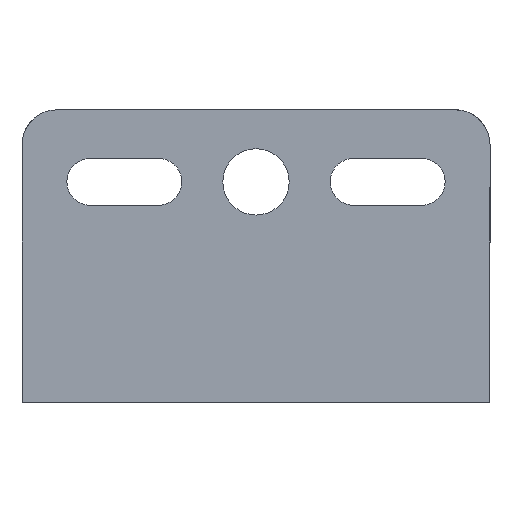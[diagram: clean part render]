
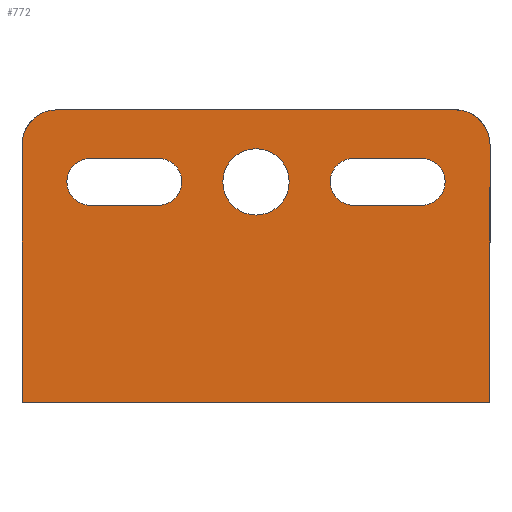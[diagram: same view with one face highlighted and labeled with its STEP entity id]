
A CAD part, front view. The second image highlights one B-rep face of the part: STEP entity #772.
In plain terms, the highlighted planar face has unit normal (0, -1, 0).
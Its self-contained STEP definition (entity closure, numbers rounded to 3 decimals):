
#7 = CARTESIAN_POINT ( 'NONE',  ( -8.5, 0., 2.6 ) ) ;
#10 = AXIS2_PLACEMENT_3D ( 'NONE', #3646, #1711, #3978 ) ;
#65 = CARTESIAN_POINT ( 'NONE',  ( -8.5, 0., 2.6 ) ) ;
#66 = ORIENTED_EDGE ( 'NONE', *, *, #1924, .F. ) ;
#88 = AXIS2_PLACEMENT_3D ( 'NONE', #3969, #2019, #95 ) ;
#95 = DIRECTION ( 'NONE',  ( 0., 0., 1. ) ) ;
#99 = VERTEX_POINT ( 'NONE', #355 ) ;
#98 = VECTOR ( 'NONE', #334, 1000. ) ;
#104 = ORIENTED_EDGE ( 'NONE', *, *, #416, .F. ) ;
#201 = EDGE_CURVE ( 'NONE', #2102, #762, #3761, .T. ) ;
#220 = VECTOR ( 'NONE', #1731, 1000. ) ;
#272 = EDGE_LOOP ( 'NONE', ( #2427, #848 ) ) ;
#275 = DIRECTION ( 'NONE',  ( 0., 1., 0. ) ) ;
#285 = EDGE_CURVE ( 'NONE', #407, #4179, #1090, .T. ) ;
#288 = DIRECTION ( 'NONE',  ( 0., -1., 0. ) ) ;
#334 = DIRECTION ( 'NONE',  ( 1., 0., 0. ) ) ;
#339 = VERTEX_POINT ( 'NONE', #3694 ) ;
#340 = CARTESIAN_POINT ( 'NONE',  ( 8.5, 0., 2.6 ) ) ;
#351 = VERTEX_POINT ( 'NONE', #3349 ) ;
#355 = CARTESIAN_POINT ( 'NONE',  ( 5., 0., 2.6 ) ) ;
#407 = VERTEX_POINT ( 'NONE', #3050 ) ;
#416 = EDGE_CURVE ( 'NONE', #2389, #3947, #896, .T. ) ;
#425 = ORIENTED_EDGE ( 'NONE', *, *, #3359, .F. ) ;
#432 = CIRCLE ( 'NONE', #4125, 1.2 ) ;
#435 = LINE ( 'NONE', #340, #1306 ) ;
#442 = DIRECTION ( 'NONE',  ( 0., 0., 1. ) ) ;
#467 = CARTESIAN_POINT ( 'NONE',  ( 5., 0., 5. ) ) ;
#484 = CARTESIAN_POINT ( 'NONE',  ( -10.2, 0., 5.7 ) ) ;
#518 = DIRECTION ( 'NONE',  ( 0., 1., 0. ) ) ;
#549 = FACE_BOUND ( 'NONE', #3333, .T. ) ;
#585 = ORIENTED_EDGE ( 'NONE', *, *, #787, .T. ) ;
#630 = CARTESIAN_POINT ( 'NONE',  ( -12., 0., 7.5 ) ) ;
#643 = CIRCLE ( 'NONE', #664, 1.2 ) ;
#659 = ORIENTED_EDGE ( 'NONE', *, *, #1516, .T. ) ;
#664 = AXIS2_PLACEMENT_3D ( 'NONE', #1527, #3163, #1254 ) ;
#669 = CARTESIAN_POINT ( 'NONE',  ( 8.5, 0., 5. ) ) ;
#709 = VERTEX_POINT ( 'NONE', #1933 ) ;
#736 = EDGE_CURVE ( 'NONE', #4115, #407, #643, .T. ) ;
#752 = EDGE_CURVE ( 'NONE', #709, #99, #435, .T. ) ;
#760 = CARTESIAN_POINT ( 'NONE',  ( 8.5, 0., 3.8 ) ) ;
#762 = VERTEX_POINT ( 'NONE', #1568 ) ;
#772 = ADVANCED_FACE ( 'NONE', ( #3777, #3870, #2043, #549 ), #4155, .F. ) ;
#787 = EDGE_CURVE ( 'NONE', #4162, #762, #1937, .T. ) ;
#817 = DIRECTION ( 'NONE',  ( 0., 0., 1. ) ) ;
#848 = ORIENTED_EDGE ( 'NONE', *, *, #1836, .T. ) ;
#896 = LINE ( 'NONE', #1159, #3339 ) ;
#929 = ORIENTED_EDGE ( 'NONE', *, *, #3659, .T. ) ;
#962 = AXIS2_PLACEMENT_3D ( 'NONE', #484, #2717, #817 ) ;
#1021 = LINE ( 'NONE', #7, #2594 ) ;
#1030 = VECTOR ( 'NONE', #3897, 1000. ) ;
#1090 = LINE ( 'NONE', #3662, #220 ) ;
#1099 = DIRECTION ( 'NONE',  ( 0., 0., -1. ) ) ;
#1110 = AXIS2_PLACEMENT_3D ( 'NONE', #2209, #288, #2528 ) ;
#1149 = ORIENTED_EDGE ( 'NONE', *, *, #2870, .T. ) ;
#1159 = CARTESIAN_POINT ( 'NONE',  ( -12., 0., -7.5 ) ) ;
#1233 = ORIENTED_EDGE ( 'NONE', *, *, #752, .T. ) ;
#1254 = DIRECTION ( 'NONE',  ( 0., 0., 1. ) ) ;
#1302 = CARTESIAN_POINT ( 'NONE',  ( 5., 0., 3.8 ) ) ;
#1303 = CARTESIAN_POINT ( 'NONE',  ( -12., 0., -7.5 ) ) ;
#1306 = VECTOR ( 'NONE', #2913, 1000. ) ;
#1317 = AXIS2_PLACEMENT_3D ( 'NONE', #3496, #275, #2511 ) ;
#1474 = EDGE_CURVE ( 'NONE', #99, #3640, #1952, .T. ) ;
#1478 = ORIENTED_EDGE ( 'NONE', *, *, #285, .T. ) ;
#1489 = CARTESIAN_POINT ( 'NONE',  ( -10.2, 0., 7.5 ) ) ;
#1516 = EDGE_CURVE ( 'NONE', #1590, #4115, #1021, .T. ) ;
#1527 = CARTESIAN_POINT ( 'NONE',  ( -8.5, 0., 3.8 ) ) ;
#1568 = CARTESIAN_POINT ( 'NONE',  ( 10.2, 0., 7.5 ) ) ;
#1590 = VERTEX_POINT ( 'NONE', #3965 ) ;
#1618 = DIRECTION ( 'NONE',  ( 0., 0., -1. ) ) ;
#1705 = CARTESIAN_POINT ( 'NONE',  ( -5., 0., 5. ) ) ;
#1711 = DIRECTION ( 'NONE',  ( 0., 1., 0. ) ) ;
#1731 = DIRECTION ( 'NONE',  ( 1., 0., 0. ) ) ;
#1821 = LINE ( 'NONE', #669, #98 ) ;
#1836 = EDGE_CURVE ( 'NONE', #2359, #4057, #2851, .T. ) ;
#1841 = EDGE_LOOP ( 'NONE', ( #2759, #1478, #2763, #659 ) ) ;
#1872 = LINE ( 'NONE', #3244, #1030 ) ;
#1924 = EDGE_CURVE ( 'NONE', #4162, #2389, #1872, .T. ) ;
#1933 = CARTESIAN_POINT ( 'NONE',  ( 8.5, 0., 2.6 ) ) ;
#1937 = CIRCLE ( 'NONE', #1110, 1.8 ) ;
#1952 = CIRCLE ( 'NONE', #3268, 1.2 ) ;
#1969 = ORIENTED_EDGE ( 'NONE', *, *, #201, .F. ) ;
#2019 = DIRECTION ( 'NONE',  ( 0., 1., 0. ) ) ;
#2043 = FACE_BOUND ( 'NONE', #272, .T. ) ;
#2102 = VERTEX_POINT ( 'NONE', #1489 ) ;
#2209 = CARTESIAN_POINT ( 'NONE',  ( 10.2, 0., 5.7 ) ) ;
#2265 = ORIENTED_EDGE ( 'NONE', *, *, #4031, .T. ) ;
#2359 = VERTEX_POINT ( 'NONE', #3367 ) ;
#2360 = CARTESIAN_POINT ( 'NONE',  ( 0., 0., 2.1 ) ) ;
#2389 = VERTEX_POINT ( 'NONE', #3697 ) ;
#2427 = ORIENTED_EDGE ( 'NONE', *, *, #2646, .T. ) ;
#2428 = CARTESIAN_POINT ( 'NONE',  ( 0., 0., 3.8 ) ) ;
#2455 = CIRCLE ( 'NONE', #10, 1.2 ) ;
#2461 = VECTOR ( 'NONE', #442, 1000. ) ;
#2511 = DIRECTION ( 'NONE',  ( 0., 0., 1. ) ) ;
#2528 = DIRECTION ( 'NONE',  ( 0., 0., 1. ) ) ;
#2594 = VECTOR ( 'NONE', #3556, 1000. ) ;
#2646 = EDGE_CURVE ( 'NONE', #4057, #2359, #3277, .T. ) ;
#2673 = CARTESIAN_POINT ( 'NONE',  ( -12., 0., -7.5 ) ) ;
#2717 = DIRECTION ( 'NONE',  ( 0., -1., 0. ) ) ;
#2720 = AXIS2_PLACEMENT_3D ( 'NONE', #2428, #518, #2750 ) ;
#2750 = DIRECTION ( 'NONE',  ( 0., 0., 1. ) ) ;
#2759 = ORIENTED_EDGE ( 'NONE', *, *, #736, .T. ) ;
#2763 = ORIENTED_EDGE ( 'NONE', *, *, #3003, .T. ) ;
#2851 = CIRCLE ( 'NONE', #88, 1.7 ) ;
#2862 = DIRECTION ( 'NONE',  ( 1., 0., 0. ) ) ;
#2870 = EDGE_CURVE ( 'NONE', #3640, #339, #1821, .T. ) ;
#2887 = ORIENTED_EDGE ( 'NONE', *, *, #1474, .T. ) ;
#2913 = DIRECTION ( 'NONE',  ( -1., 0., 0. ) ) ;
#2977 = CARTESIAN_POINT ( 'NONE',  ( 12., 0., 5.7 ) ) ;
#2979 = VECTOR ( 'NONE', #2862, 1000. ) ;
#2999 = DIRECTION ( 'NONE',  ( 0., 1., 0. ) ) ;
#3003 = EDGE_CURVE ( 'NONE', #4179, #1590, #2455, .T. ) ;
#3050 = CARTESIAN_POINT ( 'NONE',  ( -8.5, 0., 5. ) ) ;
#3163 = DIRECTION ( 'NONE',  ( 0., 1., 0. ) ) ;
#3244 = CARTESIAN_POINT ( 'NONE',  ( 12., 0., -7.5 ) ) ;
#3268 = AXIS2_PLACEMENT_3D ( 'NONE', #1302, #3543, #1618 ) ;
#3277 = CIRCLE ( 'NONE', #2720, 1.7 ) ;
#3333 = EDGE_LOOP ( 'NONE', ( #2265, #1233, #2887, #1149 ) ) ;
#3339 = VECTOR ( 'NONE', #3397, 1000. ) ;
#3349 = CARTESIAN_POINT ( 'NONE',  ( -12., 0., 5.7 ) ) ;
#3359 = EDGE_CURVE ( 'NONE', #3947, #351, #4197, .T. ) ;
#3367 = CARTESIAN_POINT ( 'NONE',  ( 0., 0., 5.5 ) ) ;
#3397 = DIRECTION ( 'NONE',  ( -1., 0., 0. ) ) ;
#3496 = CARTESIAN_POINT ( 'NONE',  ( 0., 0., 0. ) ) ;
#3543 = DIRECTION ( 'NONE',  ( 0., 1., 0. ) ) ;
#3556 = DIRECTION ( 'NONE',  ( -1., 0., 0. ) ) ;
#3640 = VERTEX_POINT ( 'NONE', #467 ) ;
#3646 = CARTESIAN_POINT ( 'NONE',  ( -5., 0., 3.8 ) ) ;
#3659 = EDGE_CURVE ( 'NONE', #2102, #351, #4033, .T. ) ;
#3662 = CARTESIAN_POINT ( 'NONE',  ( -8.5, 0., 5. ) ) ;
#3691 = EDGE_LOOP ( 'NONE', ( #66, #585, #1969, #929, #425, #104 ) ) ;
#3694 = CARTESIAN_POINT ( 'NONE',  ( 8.5, 0., 5. ) ) ;
#3697 = CARTESIAN_POINT ( 'NONE',  ( 12., 0., -7.5 ) ) ;
#3761 = LINE ( 'NONE', #630, #2979 ) ;
#3777 = FACE_BOUND ( 'NONE', #1841, .T. ) ;
#3870 = FACE_OUTER_BOUND ( 'NONE', #3691, .T. ) ;
#3897 = DIRECTION ( 'NONE',  ( 0., 0., -1. ) ) ;
#3947 = VERTEX_POINT ( 'NONE', #1303 ) ;
#3965 = CARTESIAN_POINT ( 'NONE',  ( -5., 0., 2.6 ) ) ;
#3969 = CARTESIAN_POINT ( 'NONE',  ( 0., 0., 3.8 ) ) ;
#3978 = DIRECTION ( 'NONE',  ( 0., 0., 1. ) ) ;
#4031 = EDGE_CURVE ( 'NONE', #339, #709, #432, .T. ) ;
#4033 = CIRCLE ( 'NONE', #962, 1.8 ) ;
#4057 = VERTEX_POINT ( 'NONE', #2360 ) ;
#4115 = VERTEX_POINT ( 'NONE', #65 ) ;
#4125 = AXIS2_PLACEMENT_3D ( 'NONE', #760, #2999, #1099 ) ;
#4155 = PLANE ( 'NONE',  #1317 ) ;
#4162 = VERTEX_POINT ( 'NONE', #2977 ) ;
#4179 = VERTEX_POINT ( 'NONE', #1705 ) ;
#4197 = LINE ( 'NONE', #2673, #2461 ) ;
